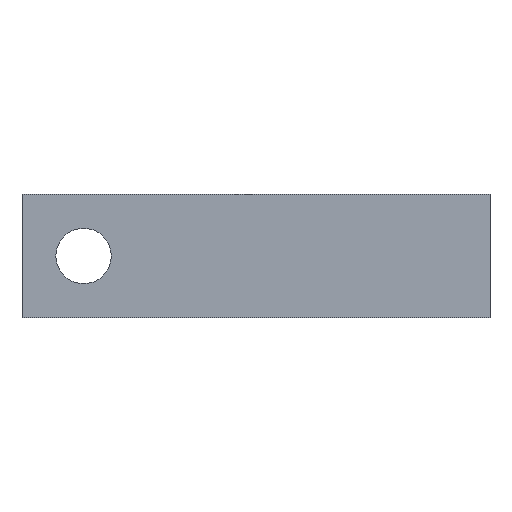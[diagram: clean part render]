
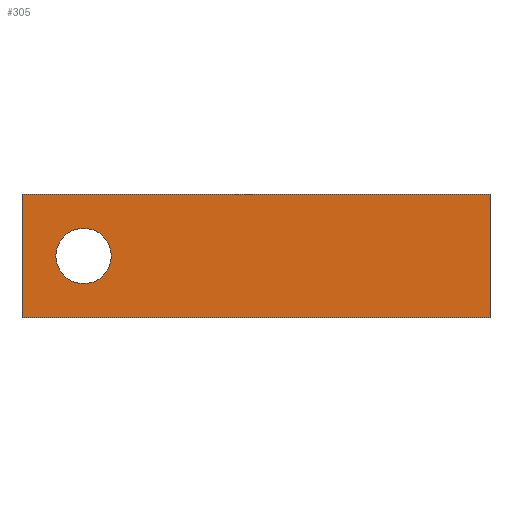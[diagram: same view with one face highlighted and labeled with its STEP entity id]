
A CAD part, left-side view. The second image highlights one B-rep face of the part: STEP entity #305.
In plain terms, the highlighted planar face has unit normal (-1, 0, 0).
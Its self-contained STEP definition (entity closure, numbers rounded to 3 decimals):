
#15=FACE_BOUND('',#51,.T.);
#19=PLANE('',#348);
#34=FACE_OUTER_BOUND('',#50,.T.);
#50=EDGE_LOOP('',(#224,#225,#226,#227));
#51=EDGE_LOOP('',(#228));
#70=LINE('',#462,#106);
#71=LINE('',#464,#107);
#72=LINE('',#466,#108);
#73=LINE('',#467,#109);
#106=VECTOR('',#382,10.);
#107=VECTOR('',#383,10.);
#108=VECTOR('',#384,10.);
#109=VECTOR('',#385,10.);
#143=CIRCLE('',#347,2.25);
#149=VERTEX_POINT('',#456);
#150=VERTEX_POINT('',#460);
#151=VERTEX_POINT('',#461);
#152=VERTEX_POINT('',#463);
#153=VERTEX_POINT('',#465);
#179=EDGE_CURVE('',#149,#149,#143,.T.);
#180=EDGE_CURVE('',#150,#151,#70,.T.);
#181=EDGE_CURVE('',#151,#152,#71,.T.);
#182=EDGE_CURVE('',#153,#152,#72,.T.);
#183=EDGE_CURVE('',#150,#153,#73,.T.);
#224=ORIENTED_EDGE('',*,*,#180,.T.);
#225=ORIENTED_EDGE('',*,*,#181,.T.);
#226=ORIENTED_EDGE('',*,*,#182,.F.);
#227=ORIENTED_EDGE('',*,*,#183,.F.);
#228=ORIENTED_EDGE('',*,*,#179,.T.);
#305=ADVANCED_FACE('',(#34,#15),#19,.T.);
#347=AXIS2_PLACEMENT_3D('',#458,#378,#379);
#348=AXIS2_PLACEMENT_3D('',#459,#380,#381);
#378=DIRECTION('center_axis',(1.,0.,0.));
#379=DIRECTION('ref_axis',(0.,1.,0.));
#380=DIRECTION('center_axis',(-1.,0.,0.));
#381=DIRECTION('ref_axis',(0.,-1.,0.));
#382=DIRECTION('',(0.,-1.,0.));
#383=DIRECTION('',(0.,0.,1.));
#384=DIRECTION('',(0.,-1.,0.));
#385=DIRECTION('',(0.,0.,1.));
#456=CARTESIAN_POINT('',(-4.466,30.027,5.));
#458=CARTESIAN_POINT('Origin',(-4.466,32.277,5.));
#459=CARTESIAN_POINT('Origin',(-4.466,37.277,0.));
#460=CARTESIAN_POINT('',(-4.466,37.277,0.));
#461=CARTESIAN_POINT('',(-4.466,-0.723,0.));
#462=CARTESIAN_POINT('',(-4.466,37.277,0.));
#463=CARTESIAN_POINT('',(-4.466,-0.723,10.));
#464=CARTESIAN_POINT('',(-4.466,-0.723,0.));
#465=CARTESIAN_POINT('',(-4.466,37.277,10.));
#466=CARTESIAN_POINT('',(-4.466,37.277,10.));
#467=CARTESIAN_POINT('',(-4.466,37.277,0.));
